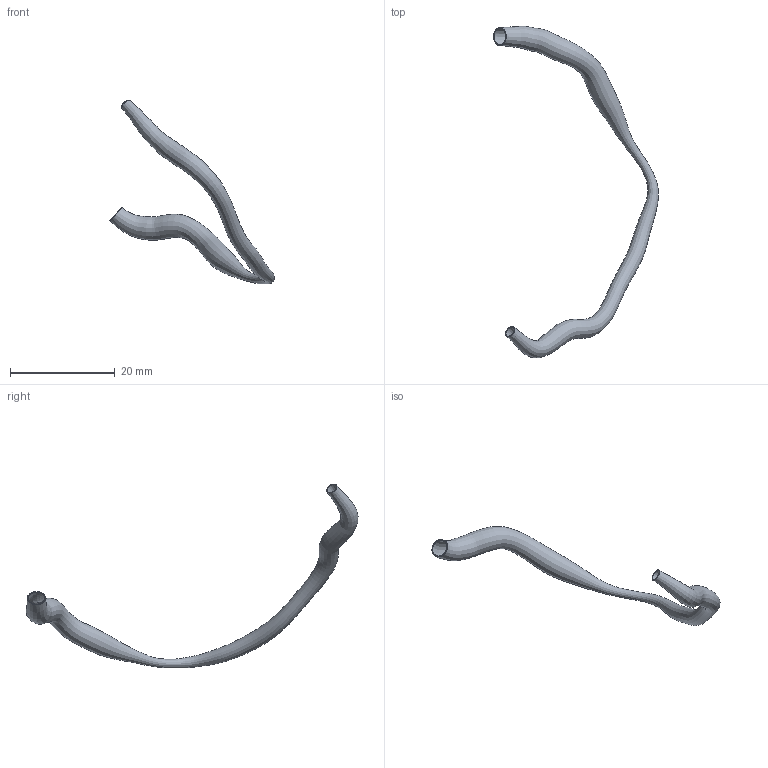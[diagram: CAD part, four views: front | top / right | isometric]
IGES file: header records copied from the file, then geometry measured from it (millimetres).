
Global section: file name: C:\Documents and Settings\Administrator\Desktop\FDA Bifurcation win\RawData_for_IGES\HRCA_Data\19990219.135207\IGES\19990219.135207.RCA.SEG.ED.igs; native system: Rhinoceros ( May 19 2006 ); preprocessor: Trout Lake IGES 012 May 19 2006; date: 100728.195811; units: centimetre
Bounding box: 31.54 x 63.54 x 35.22 mm (x, y, z)
Surface area: 2115.3 mm2 (no closed solid volume)
Topology: 0 solids, 0 shells, 4 faces, 12 edges, 8 vertices
Faces by surface type: bspline 4
